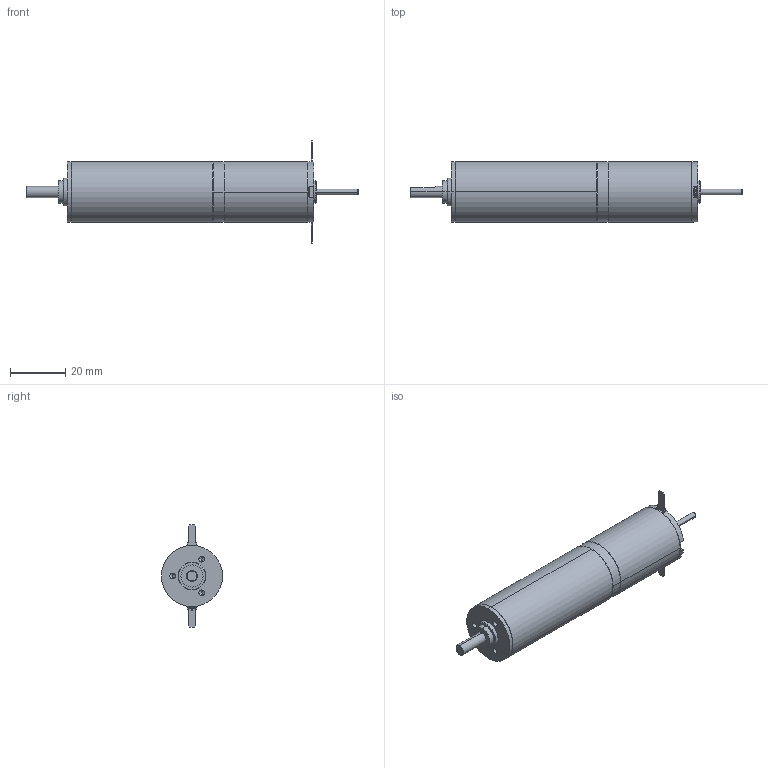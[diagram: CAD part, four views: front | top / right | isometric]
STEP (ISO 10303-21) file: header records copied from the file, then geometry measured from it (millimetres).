
FILE_DESCRIPTION (( 'STEP AP214' ), '1' );
FILE_NAME ('DCX22S_+_GP022C-5ETAGES.STEP', '2013-12-17T09:14:41', ( '' ), ( '' ), 'SwSTEP 2.0', 'SolidWorks 2013', '' );
FILE_SCHEMA (( 'AUTOMOTIVE_DESIGN' ));
Length unit declared in the file: millimetre
Products named in the file (3): DCX22S_+_GP022C-5ETAGES; GP022C_Etage 5; DCX22S GB KL
Assembly tree (2 placements, depth 2):
  DCX22S_+_GP022C-5ETAGES
    GP022C_Etage 5
    DCX22S GB KL
Bounding box: 119.8 x 22 x 36.9 mm (x, y, z)
Volume: 17439 mm3; surface area: 10209.7 mm2
Topology: 1 solids, 52 shells, 300 faces, 1041 edges, 773 vertices
Faces by surface type: plane 102, cylinder 100, cone 89, bspline 9
Entity records: 14873 total; most frequent: CARTESIAN_POINT 2688, DIRECTION 2088, ORIENTED_EDGE 1531, EDGE_CURVE 1035, AXIS2_PLACEMENT_3D 793, VERTEX_POINT 773, VECTOR 502, LINE 502
